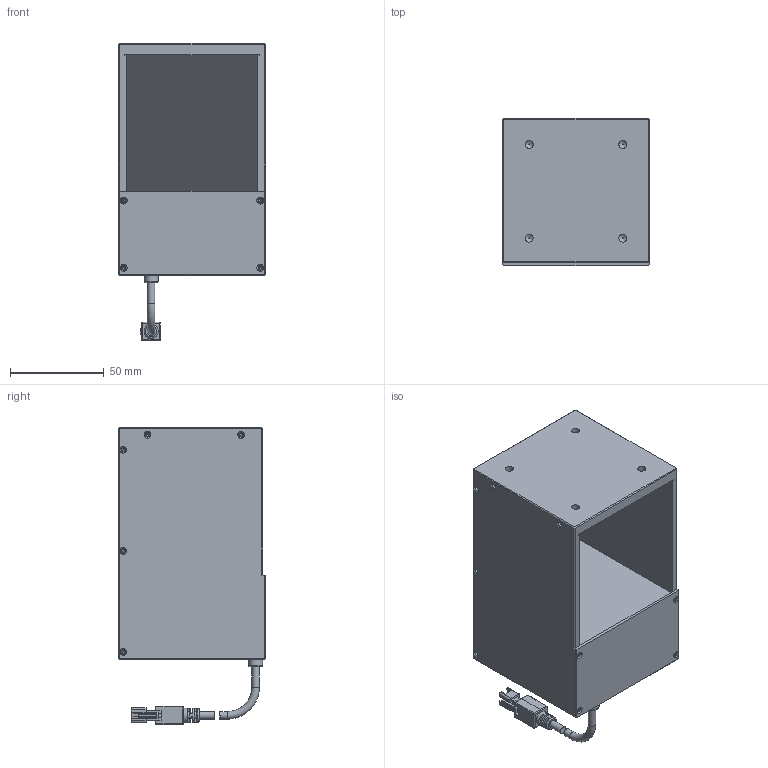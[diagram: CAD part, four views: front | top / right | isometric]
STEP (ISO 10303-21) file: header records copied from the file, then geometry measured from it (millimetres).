
FILE_DESCRIPTION (( 'STEP AP203' ), '1' );
FILE_NAME ('OPT-CO80-X-V4.3尨砩芞.STEP', '2025-01-22T03:53:31', ( '' ), ( '' ), 'SwSTEP 2.0', 'SolidWorks 2016', '' );
FILE_SCHEMA (( 'CONFIG_CONTROL_DESIGN' ));
Length unit declared in the file: millimetre
Products named in the file (1): OPT-CO80-X-V4.3尨砩芞
Bounding box: 78 x 78.5 x 158.88 mm (x, y, z)
Volume: 532177.8 mm3; surface area: 98243.7 mm2
Topology: 6 solids, 11 shells, 602 faces, 1548 edges, 985 vertices
Faces by surface type: plane 373, cylinder 157, cone 44, bspline 20, torus 8
Full cylindrical faces by diameter (mm): 1.6 x18, 2 x4, 2.4 x14, 3.5 x1, 4.1 x3, 4.2 x4, 5.8 x1, 7.5 x2, 8 x1
Entity records: 17949 total; most frequent: CARTESIAN_POINT 3867, DIRECTION 2839, ORIENTED_EDGE 2820, EDGE_CURVE 1410, VECTOR 1023, LINE 1023, VERTEX_POINT 950, AXIS2_PLACEMENT_3D 908
